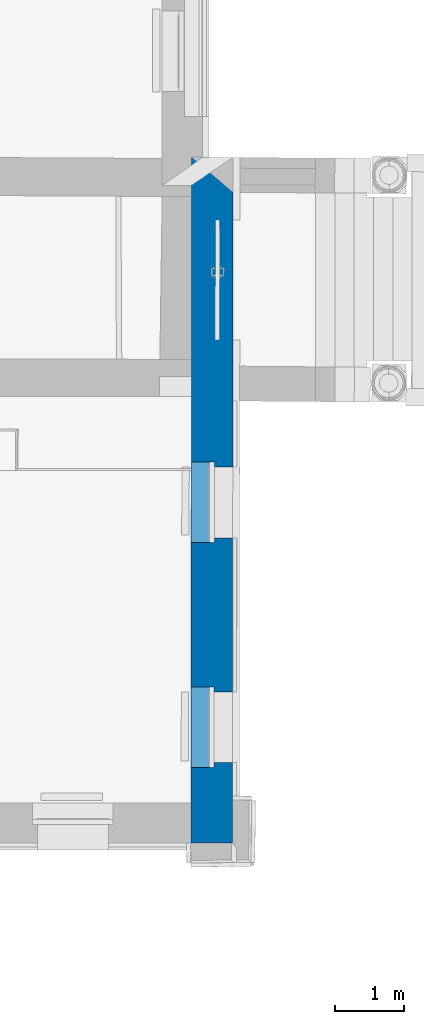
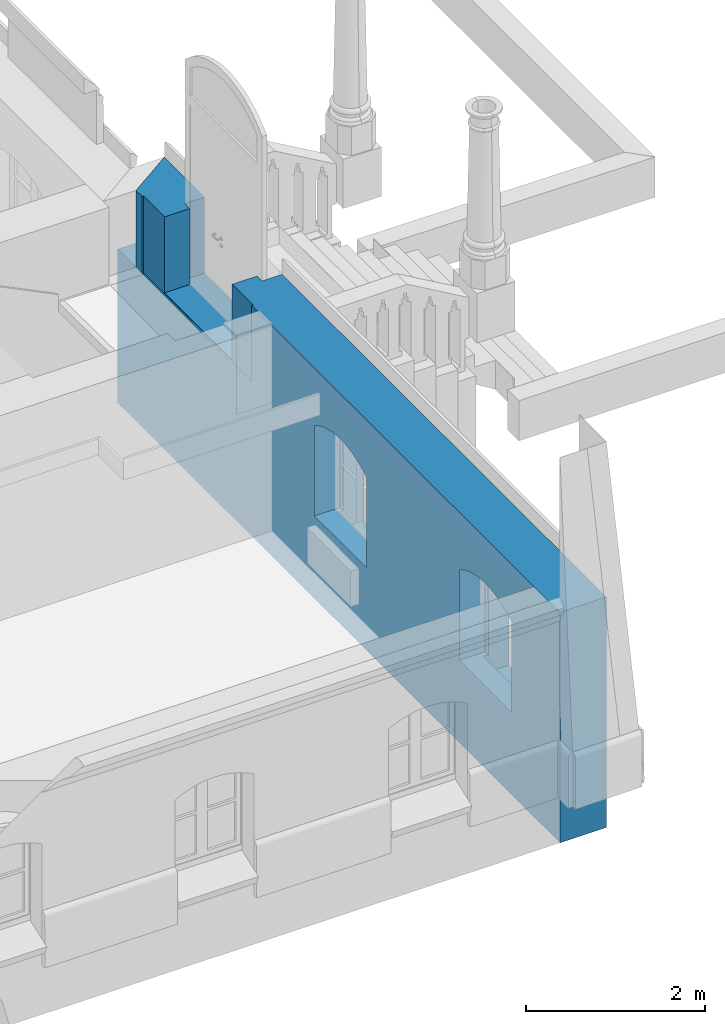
# One storey, part 68 of 196: 1 wall, 3 openings.
"""IFC2X3 building model written with IfcOpenShell, lengths in metres."""

from ifc_helpers import new_model, entity, si_unit, converted_unit, derived_unit, money_unit, direction, frame, origin_with_axes, origin_2d_with_axis, place, context, subcontext, project, spatial, polyline, rectangle, outline, extrude, boolean, faceted_brep, material, type_object, element, save


model = new_model("IFC2X3")

# Units and contexts
model_context = context("Model", 3, precision=1e-05, world=origin_with_axes(), true_north=direction((0.0, 1.0)))
body_context = subcontext(model_context, "Body", "Model", "MODEL_VIEW")
ifc_project = project(units=[si_unit("LENGTHUNIT", "METRE"), si_unit("AREAUNIT", "SQUARE_METRE"), si_unit("VOLUMEUNIT", "CUBIC_METRE"), converted_unit("PLANEANGLEUNIT", "DEGREE", entity("IfcPlaneAngleMeasure", 0.0174532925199), si_unit("PLANEANGLEUNIT", "RADIAN"), dimensions=[0, 0, 0, 0, 0, 0, 0]), money_unit("EUR"), converted_unit("TIMEUNIT", "Year", entity("IfcTimeMeasure", 31556926.0), si_unit("TIMEUNIT", "SECOND"), dimensions=[0, 0, 1, 0, 0, 0, 0]), si_unit("MASSUNIT", "GRAM", prefix="KILO"), si_unit("THERMODYNAMICTEMPERATUREUNIT", "DEGREE_CELSIUS"), si_unit("LUMINOUSINTENSITYUNIT", "LUMEN"), si_unit("ENERGYUNIT", "JOULE", prefix="MEGA"), derived_unit("THERMALCONDUCTANCEUNIT", [(si_unit("POWERUNIT", "WATT"), 1), (si_unit("LENGTHUNIT", "METRE"), -1), (si_unit("THERMODYNAMICTEMPERATUREUNIT", "KELVIN"), -1)]), derived_unit("SPECIFICHEATCAPACITYUNIT", [(si_unit("ENERGYUNIT", "JOULE"), 1), (si_unit("MASSUNIT", "GRAM", prefix="KILO"), -1), (si_unit("THERMODYNAMICTEMPERATUREUNIT", "KELVIN"), -1)]), derived_unit("MASSDENSITYUNIT", [(si_unit("MASSUNIT", "GRAM", prefix="KILO"), 1), (si_unit("VOLUMEUNIT", "CUBIC_METRE"), -1)])], contexts=[model_context])

# Site, building, storey
site_placement = place(None, origin_with_axes())
site = spatial("IfcSite", under=ifc_project, at=site_placement, Name="Gelände", CompositionType="ELEMENT")
building_placement = place(site_placement, origin_with_axes())
building = spatial("IfcBuilding", under=site, at=building_placement, Name="Gebäude", CompositionType="ELEMENT")
storey_placement = place(building_placement, frame((0.0, 0.0, -3.0), z_axis=(0.0, 0.0, 1.0), x_axis=(1.0, 0.0, 0.0)))
storey = spatial("IfcBuildingStorey", under=building, at=storey_placement, Name="KELLERGESCHOSS", CompositionType="ELEMENT", Elevation=-3.0)

# Wall, openings
ifc_material = material(Name="05_ALLGEMEIN - TRAGENDE BAUTEILE")
wall_type = type_object("IfcWallType", Name="05_ALLGEMEIN - TRAGENDE BAUTEILE 600", PredefinedType="ELEMENTEDWALL")
wall_placement = place(storey_placement, frame((32.1131897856, 9.89165640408, -0.36), z_axis=(0.0, 0.0, 1.0), x_axis=(0.000762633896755, 0.999999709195, 0.0)))
wall = element("IfcWall", 1, at=wall_placement, inside=storey, type_object=wall_type, material=ifc_material, Name="Wand-037", ObjectType="ELEMENTEDWALL", context=body_context, shape_type="CSG", body=[
    boolean("DIFFERENCE", boolean("DIFFERENCE", boolean("DIFFERENCE", boolean("DIFFERENCE", boolean("DIFFERENCE", extrude(outline(polyline([(-0.000619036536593, 0.0), (9.91634916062, 0.0), (9.91634916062, 0.6), (-0.000619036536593, 0.6), (-0.000619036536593, 0.0)])), origin_with_axes(), (0.0, 0.0, 1.0), 3.15), faceted_brep([(6.45237469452, 0.599999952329, 2.1), (6.74236427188, 0.599996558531, 2.1), (6.74326404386, 0.6, 2.1), (6.74326400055, 0.599887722, 2.1), (6.45237469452, 0.599999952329, 3.15), (6.74326404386, 0.6, 3.15), (6.74326400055, 0.599887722, 3.15)], [[[0, 1, 2, 3]], [[0, 4, 5, 2, 1]], [[2, 5, 6, 3]], [[4, 0, 3, 6]], [[4, 6, 5]]])), faceted_brep([(6.74326404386, 0.6, 2.1), (6.74326404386, 0.6, 3.15), (9.36962464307, 0.6, 3.15), (9.36962464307, 0.6, 2.2), (9.36962464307, 0.6, 2.1), (6.91132902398, 0.599822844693, 2.1), (6.91132904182, 0.599822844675, 2.2), (6.91132904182, 0.599822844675, 3.15), (6.91130866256, 0.579999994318, 3.15), (9.36947163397, 0.579999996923, 3.15), (9.36947163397, 0.579999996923, 2.2), (9.36947163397, 0.579999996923, 2.1), (6.91130866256, 0.579999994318, 2.1), (6.91130866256, 0.579999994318, 2.2)], [[[0, 1, 2, 3, 4]], [[0, 5, 6, 7, 1]], [[1, 7, 8, 9, 2]], [[3, 2, 9, 10]], [[11, 4, 3, 10]], [[5, 0, 4, 11, 12]], [[6, 5, 12, 13]], [[7, 6, 13, 8]], [[8, 13, 12, 11, 10, 9]]])), faceted_brep([(-0.000619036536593, 0.0, 0.0), (-0.000619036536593, 0.6, 0.0), (0.0, 0.0, 0.0), (-0.000619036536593, 0.6, 3.15), (-0.000619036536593, 0.0, 3.15), (0.0, 0.0, 3.15)], [[[0, 1, 2]], [[3, 1, 0, 4]], [[1, 3, 5, 2]], [[4, 0, 2, 5]], [[3, 4, 5]]])), faceted_brep([(6.44721657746, 0.00172856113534, 3.14495957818), (6.44721657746, 0.00172856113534, 3.04495556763), (6.44720163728, 0.0, 3.04497104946), (6.44720163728, 0.0, 3.14497506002), (6.64720910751, 0.0, 3.14495957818), (6.64720910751, 0.0, 3.04495556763)], [[[0, 1, 2, 3]], [[1, 0, 4, 5]], [[2, 1, 5]], [[3, 2, 5, 4]], [[0, 3, 4]]])), faceted_brep([(9.50895716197, 0.6, 2.1), (9.50895716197, 0.6, 3.15), (9.91634916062, 0.6, 3.15), (9.91634916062, 0.6, 2.1), (9.90896463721, 0.6, 2.1), (9.91263281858, 0.0, 2.1), (9.91263281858, 0.0, 3.15), (9.91634916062, 0.0, 3.15), (9.91634916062, 0.6, 0.0), (9.91634916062, 0.0, 0.0), (9.91263281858, 0.0, 0.0)], [[[0, 1, 2, 3, 4]], [[1, 0, 5, 6]], [[1, 6, 7, 2]], [[8, 3, 2, 7, 9]], [[0, 4, 3, 5]], [[5, 10, 9, 7, 6]], [[3, 8, 10, 5]], [[8, 9, 10]]])),
])
opening_1_placement = place(wall_placement, frame((1.67204689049, 0.0, 1.12816901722), z_axis=(0.0, 0.0, 1.0), x_axis=(1.0, 0.0, 0.0)))
element("IfcOpeningElement", 2, at=opening_1_placement, cuts=wall, Name="Fenster-015", context=body_context, shape_type="SweptSolid", body=[
    extrude(outline(polyline([(0.581905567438, 0.0), (0.581905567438, 1.24), (0.492757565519, 1.28983700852), (0.399379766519, 1.33120946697), (0.302573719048, 1.36376223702), (0.203170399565, 1.38721588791), (0.102023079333, 1.40136909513), (0.0, 1.40610036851), (-0.102023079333, 1.40136909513), (-0.203170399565, 1.38721588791), (-0.302573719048, 1.36376223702), (-0.399379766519, 1.33120946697), (-0.492757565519, 1.28983700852), (-0.581905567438, 1.24), (-0.581905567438, 0.0), (0.581905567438, 0.0)])), frame((0.0, 0.266646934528, 0.0), z_axis=(0.0, -1.0, 0.0), x_axis=(1.0, 0.0, 0.0)), (0.0, 0.0, -1.0), 0.933353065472),
    extrude(outline(polyline([(-0.511905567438, 0.0), (-0.511905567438, -1.20024398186), (-0.416293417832, -1.24844467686), (-0.316202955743, -1.28648267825), (-0.212710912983, -1.31394878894), (-0.106930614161, -1.33054753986), (0.0, -1.33610036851), (0.106930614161, -1.33054753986), (0.212710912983, -1.31394878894), (0.316202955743, -1.28648267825), (0.416293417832, -1.24844467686), (0.511905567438, -1.20024398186), (0.511905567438, 0.0), (-0.511905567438, 0.0)])), frame((0.0, 0.266646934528, 0.0), z_axis=(0.0, 1.0, 0.0), x_axis=(1.0, 0.0, 0.0)), (0.0, 0.0, -1.0), 0.866646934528),
    extrude(rectangle(XDim=1.02381113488, YDim=0.232032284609, at=origin_2d_with_axis()), frame((0.0, 0.327689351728, -0.116016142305), z_axis=(0.0, 1.0, 0.0), x_axis=(1.0, 0.0, 0.0)), (0.0, 0.0, -1.0), 0.661042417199),
])
opening_2_placement = place(wall_placement, frame((4.92333946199, 0.0, 1.12816901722), z_axis=(0.0, 0.0, 1.0), x_axis=(1.0, 0.0, 0.0)))
element("IfcOpeningElement", 3, at=opening_2_placement, cuts=wall, Name="Fenster-015", context=body_context, shape_type="SweptSolid", body=[
    extrude(outline(polyline([(0.581905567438, 0.0), (0.581905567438, 1.24), (0.492757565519, 1.28983700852), (0.399379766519, 1.33120946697), (0.302573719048, 1.36376223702), (0.203170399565, 1.38721588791), (0.102023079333, 1.40136909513), (0.0, 1.40610036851), (-0.102023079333, 1.40136909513), (-0.203170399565, 1.38721588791), (-0.302573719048, 1.36376223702), (-0.399379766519, 1.33120946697), (-0.492757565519, 1.28983700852), (-0.581905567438, 1.24), (-0.581905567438, 0.0), (0.581905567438, 0.0)])), frame((0.0, 0.266646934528, 0.0), z_axis=(0.0, -1.0, 0.0), x_axis=(1.0, 0.0, 0.0)), (0.0, 0.0, -1.0), 0.933353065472),
    extrude(outline(polyline([(-0.511905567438, 0.0), (-0.511905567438, -1.20024398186), (-0.416293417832, -1.24844467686), (-0.316202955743, -1.28648267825), (-0.212710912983, -1.31394878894), (-0.106930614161, -1.33054753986), (0.0, -1.33610036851), (0.106930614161, -1.33054753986), (0.212710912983, -1.31394878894), (0.316202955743, -1.28648267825), (0.416293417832, -1.24844467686), (0.511905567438, -1.20024398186), (0.511905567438, 0.0), (-0.511905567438, 0.0)])), frame((0.0, 0.266646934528, 0.0), z_axis=(0.0, 1.0, 0.0), x_axis=(1.0, 0.0, 0.0)), (0.0, 0.0, -1.0), 0.866646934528),
    extrude(rectangle(XDim=1.02381113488, YDim=0.232032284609, at=origin_2d_with_axis()), frame((0.0, 0.327689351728, -0.116016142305), z_axis=(0.0, 1.0, 0.0), x_axis=(1.0, 0.0, 0.0)), (0.0, 0.0, -1.0), 0.661042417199),
])
opening_3_placement = place(wall_placement, frame((8.1417537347, 0.0, 2.11244366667), z_axis=(0.0, 0.0, 1.0), x_axis=(1.0, 0.0, 0.0)))
element("IfcOpeningElement", 4, at=opening_3_placement, cuts=wall, Name="Tür-022", context=body_context, shape_type="SweptSolid", body=[
    extrude(outline(polyline([(-0.758161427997, 0.0), (-0.758161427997, -2.96317339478), (-0.678452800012, -3.03015185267), (-0.592858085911, -3.08942346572), (-0.502119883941, -3.14047400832), (-0.407025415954, -3.18286057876), (-0.308399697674, -3.21621544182), (-0.207098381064, -3.24024921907), (-0.104000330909, -3.25475339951), (0.0, -3.2596021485), (0.104000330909, -3.25475339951), (0.207098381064, -3.24024921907), (0.308399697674, -3.21621544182), (0.407025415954, -3.18286057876), (0.502119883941, -3.14047400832), (0.592858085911, -3.08942346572), (0.678452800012, -3.03015185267), (0.758161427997, -2.96317339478), (0.758161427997, 0.0), (-0.758161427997, 0.0)])), frame((0.0, 0.255356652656, 0.0), z_axis=(0.0, 1.0, 0.0), x_axis=(1.0, 0.0, 0.0)), (0.0, 0.0, 1.0), 0.944643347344),
    extrude(outline(polyline([(0.868161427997, 0.0), (0.868161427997, 3.01), (0.778886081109, 3.09091383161), (0.682109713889, 3.1626875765), (0.578764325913, 3.2246300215), (0.469845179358, 3.27614463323), (0.356401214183, 3.31673530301), (0.239524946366, 3.34601112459), (0.120341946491, 3.36369015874), (0.0, 3.3696021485), (-0.120341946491, 3.36369015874), (-0.239524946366, 3.34601112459), (-0.356401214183, 3.31673530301), (-0.469845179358, 3.27614463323), (-0.578764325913, 3.2246300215), (-0.682109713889, 3.1626875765), (-0.778886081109, 3.09091383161), (-0.868161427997, 3.01), (-0.868161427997, 0.0), (0.868161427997, 0.0)])), frame((0.0, 0.195356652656, 0.0), z_axis=(0.0, -1.0, 0.0), x_axis=(1.0, 0.0, 0.0)), (0.0, 0.0, 1.0), 0.795356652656),
    extrude(outline(polyline([(0.868161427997, 0.0), (0.868161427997, 3.01), (0.778886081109, 3.09091383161), (0.682109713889, 3.1626875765), (0.578764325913, 3.2246300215), (0.469845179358, 3.27614463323), (0.356401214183, 3.31673530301), (0.239524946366, 3.34601112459), (0.120341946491, 3.36369015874), (0.0, 3.3696021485), (-0.120341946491, 3.36369015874), (-0.239524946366, 3.34601112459), (-0.356401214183, 3.31673530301), (-0.469845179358, 3.27614463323), (-0.578764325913, 3.2246300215), (-0.682109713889, 3.1626875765), (-0.778886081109, 3.09091383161), (-0.868161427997, 3.01), (-0.868161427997, 0.0), (0.868161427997, 0.0)])), frame((0.0, 0.195356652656, 0.0), z_axis=(0.0, -1.0, 0.0), x_axis=(1.0, 0.0, 0.0)), (0.0, 0.0, -1.0), 0.06),
])

save(model, "model.ifc")
